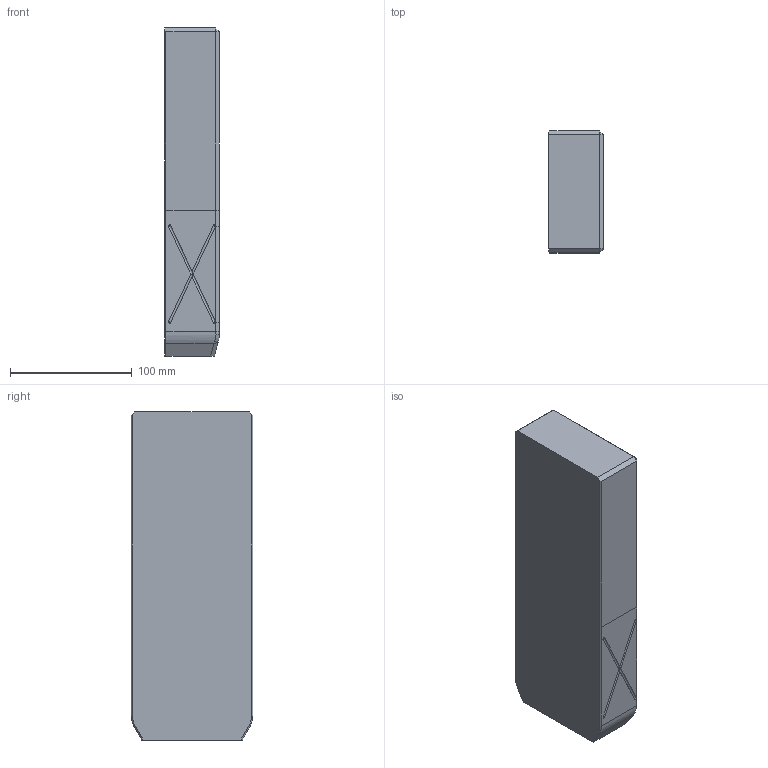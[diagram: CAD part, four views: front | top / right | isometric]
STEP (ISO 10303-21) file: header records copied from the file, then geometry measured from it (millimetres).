
FILE_DESCRIPTION((''),'2;1');
FILE_NAME('','2010-08-30T17:51:52+09:00',('misumi'),(''),'M/STEP i/f 1R2-14','CADmeister v5.1','');
FILE_SCHEMA(('AUTOMOTIVE_DESIGN'));
Length unit declared in the file: millimetre
Products named in the file (1): GW100-120-270
Bounding box: 45 x 100 x 270 mm (x, y, z)
Volume: 1198396.9 mm3; surface area: 86246.9 mm2
Topology: 1 solids, 1 shells, 74 faces, 199 edges, 117 vertices
Faces by surface type: plane 37, cylinder 17, revolution 12, bspline 6, cone 2
Entity records: 3490 total; most frequent: CARTESIAN_POINT 823, ORIENTED_EDGE 374, DIRECTION 351, COLOUR_RGB 202, CURVE_STYLE 195, PRESENTATION_STYLE_ASSIGNMENT 194, OVER_RIDING_STYLED_ITEM 193, EDGE_CURVE 187
